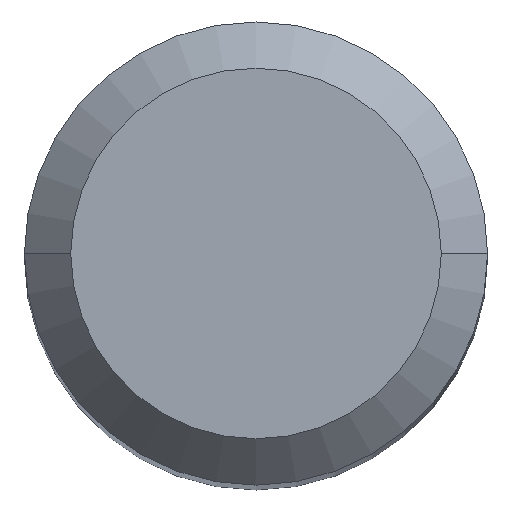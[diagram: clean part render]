
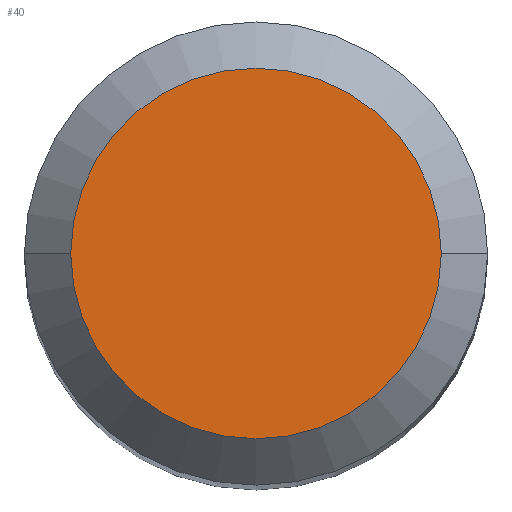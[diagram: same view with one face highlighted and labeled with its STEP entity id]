
A CAD part, top view. The second image highlights one B-rep face of the part: STEP entity #40.
In plain terms, the highlighted planar face has unit normal (0, 0, 1).
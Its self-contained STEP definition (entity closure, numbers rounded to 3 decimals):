
#28 = DIRECTION ( 'NONE',  ( -1., 0., 0. ) ) ;
#40 = ADVANCED_FACE ( 'NONE', ( #468 ), #326, .T. ) ;
#62 = AXIS2_PLACEMENT_3D ( 'NONE', #269, #397, #28 ) ;
#63 = CARTESIAN_POINT ( 'NONE',  ( -2.4, 0., 0. ) ) ;
#76 = DIRECTION ( 'NONE',  ( -1., 0., 0. ) ) ;
#91 = ORIENTED_EDGE ( 'NONE', *, *, #211, .F. ) ;
#97 = DIRECTION ( 'NONE',  ( 0., 0., 1. ) ) ;
#111 = DIRECTION ( 'NONE',  ( 0., 0., -1. ) ) ;
#148 = CARTESIAN_POINT ( 'NONE',  ( 0., 0., 0. ) ) ;
#174 = ORIENTED_EDGE ( 'NONE', *, *, #502, .F. ) ;
#190 = EDGE_LOOP ( 'NONE', ( #174, #91 ) ) ;
#211 = EDGE_CURVE ( 'NONE', #381, #382, #230, .T. ) ;
#228 = AXIS2_PLACEMENT_3D ( 'NONE', #148, #111, #76 ) ;
#230 = CIRCLE ( 'NONE', #62, 2.4 ) ;
#234 = CARTESIAN_POINT ( 'NONE',  ( 2.4, 0., 0. ) ) ;
#262 = DIRECTION ( 'NONE',  ( 1., 0., 0. ) ) ;
#266 = AXIS2_PLACEMENT_3D ( 'NONE', #503, #97, #262 ) ;
#269 = CARTESIAN_POINT ( 'NONE',  ( 0., 0., 0. ) ) ;
#326 = PLANE ( 'NONE',  #266 ) ;
#381 = VERTEX_POINT ( 'NONE', #234 ) ;
#382 = VERTEX_POINT ( 'NONE', #63 ) ;
#397 = DIRECTION ( 'NONE',  ( 0., 0., -1. ) ) ;
#453 = CIRCLE ( 'NONE', #228, 2.4 ) ;
#468 = FACE_OUTER_BOUND ( 'NONE', #190, .T. ) ;
#502 = EDGE_CURVE ( 'NONE', #382, #381, #453, .T. ) ;
#503 = CARTESIAN_POINT ( 'NONE',  ( 0., 2.4, 0. ) ) ;
